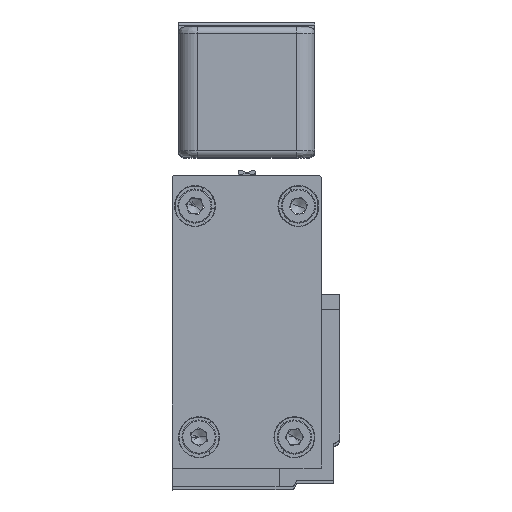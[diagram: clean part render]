
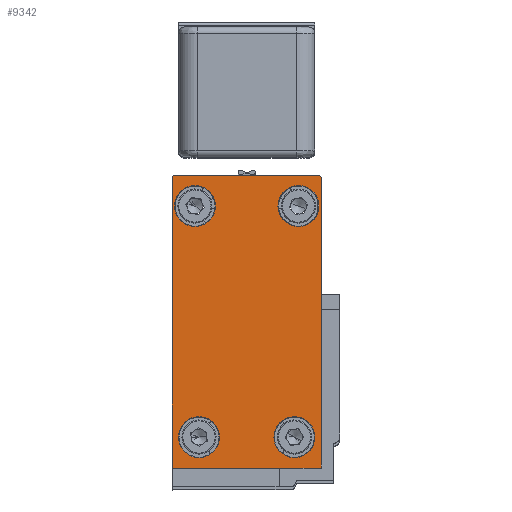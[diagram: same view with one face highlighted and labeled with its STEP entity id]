
A CAD part, top view. The second image highlights one B-rep face of the part: STEP entity #9342.
In plain terms, the highlighted planar face has unit normal (0, 0, 1).
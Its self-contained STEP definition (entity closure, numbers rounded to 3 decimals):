
#182 = CIRCLE ( 'NONE', #5181, 3.302 ) ;
#318 = AXIS2_PLACEMENT_3D ( 'NONE', #29652, #29645, #29474 ) ;
#383 = EDGE_CURVE ( 'NONE', #25923, #4371, #20997, .T. ) ;
#823 = ORIENTED_EDGE ( 'NONE', *, *, #23615, .T. ) ;
#1752 = CARTESIAN_POINT ( 'NONE',  ( -11.063, 21.401, 3185. ) ) ;
#2091 = DIRECTION ( 'NONE',  ( -1., 0., 0. ) ) ;
#2096 = DIRECTION ( 'NONE',  ( 0., 0., -1. ) ) ;
#2126 = CARTESIAN_POINT ( 'NONE',  ( -13.714, -15.887, 3185. ) ) ;
#2542 = VERTEX_POINT ( 'NONE', #18783 ) ;
#2805 = CARTESIAN_POINT ( 'NONE',  ( 5.984, 7.11, 3185. ) ) ;
#3389 = EDGE_LOOP ( 'NONE', ( #4789, #9241 ) ) ;
#3394 = CIRCLE ( 'NONE', #14836, 0.5 ) ;
#3486 = VERTEX_POINT ( 'NONE', #11392 ) ;
#3523 = CIRCLE ( 'NONE', #25349, 3.302 ) ;
#4075 = DIRECTION ( 'NONE',  ( -1., 0., 0. ) ) ;
#4110 = DIRECTION ( 'NONE',  ( 0., 0., -1. ) ) ;
#4147 = CARTESIAN_POINT ( 'NONE',  ( 1.676, -15.887, 3185. ) ) ;
#4371 = VERTEX_POINT ( 'NONE', #1752 ) ;
#4789 = ORIENTED_EDGE ( 'NONE', *, *, #383, .T. ) ;
#4973 = CARTESIAN_POINT ( 'NONE',  ( 5.984, 7.11, 3185. ) ) ;
#5000 = CARTESIAN_POINT ( 'NONE',  ( 5.637, 21.401, 3185. ) ) ;
#5181 = AXIS2_PLACEMENT_3D ( 'NONE', #31773, #14780, #34570 ) ;
#5633 = AXIS2_PLACEMENT_3D ( 'NONE', #25414, #25384, #25373 ) ;
#5845 = AXIS2_PLACEMENT_3D ( 'NONE', #22988, #6001, #25837 ) ;
#5848 = LINE ( 'NONE', #15147, #13366 ) ;
#5880 = VERTEX_POINT ( 'NONE', #8131 ) ;
#6001 = DIRECTION ( 'NONE',  ( 0., 0., -1. ) ) ;
#7020 = ORIENTED_EDGE ( 'NONE', *, *, #16464, .T. ) ;
#7144 = EDGE_CURVE ( 'NONE', #2542, #7967, #3394, .T. ) ;
#7254 = EDGE_CURVE ( 'NONE', #36102, #3486, #26429, .T. ) ;
#7514 = CARTESIAN_POINT ( 'NONE',  ( -10.412, -15.887, 3185. ) ) ;
#7869 = VERTEX_POINT ( 'NONE', #2805 ) ;
#7967 = VERTEX_POINT ( 'NONE', #8685 ) ;
#8131 = CARTESIAN_POINT ( 'NONE',  ( -1.626, -15.887, 3185. ) ) ;
#8455 = DIRECTION ( 'NONE',  ( -1., 0., 0. ) ) ;
#8497 = DIRECTION ( 'NONE',  ( 0., 0., 1. ) ) ;
#8527 = CARTESIAN_POINT ( 'NONE',  ( -18.014, -20.888, 3185. ) ) ;
#8685 = CARTESIAN_POINT ( 'NONE',  ( 5.485, 26.371, 3185. ) ) ;
#8900 = PLANE ( 'NONE',  #14030 ) ;
#9211 = DIRECTION ( 'NONE',  ( -1., 0., 0. ) ) ;
#9241 = ORIENTED_EDGE ( 'NONE', *, *, #26726, .T. ) ;
#9243 = DIRECTION ( 'NONE',  ( 0., 0., -1. ) ) ;
#9278 = DIRECTION ( 'NONE',  ( -1., 0., 0. ) ) ;
#9288 = CARTESIAN_POINT ( 'NONE',  ( 2.335, 21.401, 3185. ) ) ;
#9342 = ADVANCED_FACE ( 'NONE', ( #10724, #18166, #24873, #33276, #17275 ), #8900, .T. ) ;
#9343 = CARTESIAN_POINT ( 'NONE',  ( -18.014, 25.871, 3185. ) ) ;
#9362 = DIRECTION ( 'NONE',  ( 0., 0., -1. ) ) ;
#9408 = CARTESIAN_POINT ( 'NONE',  ( -13.714, -15.887, 3185. ) ) ;
#10317 = AXIS2_PLACEMENT_3D ( 'NONE', #4147, #4110, #4075 ) ;
#10487 = VECTOR ( 'NONE', #27668, 1000. ) ;
#10667 = EDGE_CURVE ( 'NONE', #33552, #5880, #34904, .T. ) ;
#10724 = FACE_BOUND ( 'NONE', #3389, .T. ) ;
#10804 = CARTESIAN_POINT ( 'NONE',  ( -17.667, 21.401, 3185. ) ) ;
#10818 = EDGE_CURVE ( 'NONE', #33937, #30704, #24295, .T. ) ;
#11171 = EDGE_CURVE ( 'NONE', #5880, #33552, #36441, .T. ) ;
#11301 = EDGE_CURVE ( 'NONE', #23341, #15630, #31187, .T. ) ;
#11392 = CARTESIAN_POINT ( 'NONE',  ( 5.984, -20.888, 3185. ) ) ;
#11906 = AXIS2_PLACEMENT_3D ( 'NONE', #30550, #13534, #33354 ) ;
#11956 = ORIENTED_EDGE ( 'NONE', *, *, #7254, .T. ) ;
#12582 = CARTESIAN_POINT ( 'NONE',  ( 5.485, 26.371, 3185. ) ) ;
#12989 = CARTESIAN_POINT ( 'NONE',  ( -18.014, -20.888, 3185. ) ) ;
#13132 = EDGE_CURVE ( 'NONE', #15630, #23341, #3523, .T. ) ;
#13366 = VECTOR ( 'NONE', #14816, 1000. ) ;
#13534 = DIRECTION ( 'NONE',  ( 0., 0., -1. ) ) ;
#13615 = EDGE_LOOP ( 'NONE', ( #25400, #27262, #19714, #16855, #27242, #7020, #11956 ) ) ;
#13789 = CARTESIAN_POINT ( 'NONE',  ( -0.967, 21.401, 3185. ) ) ;
#14030 = AXIS2_PLACEMENT_3D ( 'NONE', #8527, #8497, #8455 ) ;
#14393 = EDGE_CURVE ( 'NONE', #3486, #7869, #33952, .T. ) ;
#14780 = DIRECTION ( 'NONE',  ( 0., 0., -1. ) ) ;
#14816 = DIRECTION ( 'NONE',  ( 0., -1., 0. ) ) ;
#14836 = AXIS2_PLACEMENT_3D ( 'NONE', #21601, #21592, #21549 ) ;
#15147 = CARTESIAN_POINT ( 'NONE',  ( -18.014, 25.871, 3185. ) ) ;
#15630 = VERTEX_POINT ( 'NONE', #25390 ) ;
#16254 = VECTOR ( 'NONE', #18238, 1000. ) ;
#16464 = EDGE_CURVE ( 'NONE', #27943, #36102, #5848, .T. ) ;
#16855 = ORIENTED_EDGE ( 'NONE', *, *, #25210, .T. ) ;
#17275 = FACE_OUTER_BOUND ( 'NONE', #13615, .T. ) ;
#17946 = LINE ( 'NONE', #4973, #10487 ) ;
#17984 = CARTESIAN_POINT ( 'NONE',  ( 4.978, -15.887, 3185. ) ) ;
#18166 = FACE_BOUND ( 'NONE', #20255, .T. ) ;
#18238 = DIRECTION ( 'NONE',  ( -1., 0., 0. ) ) ;
#18439 = EDGE_LOOP ( 'NONE', ( #20466, #21894 ) ) ;
#18783 = CARTESIAN_POINT ( 'NONE',  ( 5.984, 25.871, 3185. ) ) ;
#19062 = ORIENTED_EDGE ( 'NONE', *, *, #10667, .T. ) ;
#19105 = CIRCLE ( 'NONE', #5845, 3.302 ) ;
#19147 = ORIENTED_EDGE ( 'NONE', *, *, #11171, .T. ) ;
#19714 = ORIENTED_EDGE ( 'NONE', *, *, #7144, .T. ) ;
#19989 = DIRECTION ( 'NONE',  ( 1., 0., 0. ) ) ;
#20197 = CARTESIAN_POINT ( 'NONE',  ( -18.014, -20.888, 3185. ) ) ;
#20255 = EDGE_LOOP ( 'NONE', ( #32744, #823 ) ) ;
#20466 = ORIENTED_EDGE ( 'NONE', *, *, #13132, .T. ) ;
#20997 = CIRCLE ( 'NONE', #5633, 3.302 ) ;
#21549 = DIRECTION ( 'NONE',  ( 0., 1., 0. ) ) ;
#21592 = DIRECTION ( 'NONE',  ( 0., 0., 1. ) ) ;
#21601 = CARTESIAN_POINT ( 'NONE',  ( 5.485, 25.871, 3185. ) ) ;
#21894 = ORIENTED_EDGE ( 'NONE', *, *, #11301, .T. ) ;
#22089 = EDGE_CURVE ( 'NONE', #7869, #2542, #17946, .T. ) ;
#22988 = CARTESIAN_POINT ( 'NONE',  ( 2.335, 21.401, 3185. ) ) ;
#23341 = VERTEX_POINT ( 'NONE', #7514 ) ;
#23615 = EDGE_CURVE ( 'NONE', #30704, #33937, #19105, .T. ) ;
#23819 = LINE ( 'NONE', #12582, #16254 ) ;
#24295 = CIRCLE ( 'NONE', #34445, 3.302 ) ;
#24873 = FACE_BOUND ( 'NONE', #25151, .T. ) ;
#25151 = EDGE_LOOP ( 'NONE', ( #19147, #19062 ) ) ;
#25210 = EDGE_CURVE ( 'NONE', #7967, #31440, #23819, .T. ) ;
#25349 = AXIS2_PLACEMENT_3D ( 'NONE', #9408, #9362, #9278 ) ;
#25373 = DIRECTION ( 'NONE',  ( -1., 0., 0. ) ) ;
#25384 = DIRECTION ( 'NONE',  ( 0., 0., -1. ) ) ;
#25390 = CARTESIAN_POINT ( 'NONE',  ( -17.017, -15.887, 3185. ) ) ;
#25400 = ORIENTED_EDGE ( 'NONE', *, *, #14393, .T. ) ;
#25414 = CARTESIAN_POINT ( 'NONE',  ( -14.365, 21.401, 3185. ) ) ;
#25837 = DIRECTION ( 'NONE',  ( -1., 0., 0. ) ) ;
#25923 = VERTEX_POINT ( 'NONE', #10804 ) ;
#26429 = LINE ( 'NONE', #20197, #33054 ) ;
#26452 = VECTOR ( 'NONE', #26747, 1000. ) ;
#26630 = CARTESIAN_POINT ( 'NONE',  ( 5.984, -20.888, 3185. ) ) ;
#26726 = EDGE_CURVE ( 'NONE', #4371, #25923, #182, .T. ) ;
#26747 = DIRECTION ( 'NONE',  ( 0., 1., 0. ) ) ;
#27242 = ORIENTED_EDGE ( 'NONE', *, *, #29541, .F. ) ;
#27262 = ORIENTED_EDGE ( 'NONE', *, *, #22089, .T. ) ;
#27668 = DIRECTION ( 'NONE',  ( 0., 1., 0. ) ) ;
#27943 = VERTEX_POINT ( 'NONE', #9343 ) ;
#29325 = AXIS2_PLACEMENT_3D ( 'NONE', #2126, #2096, #2091 ) ;
#29474 = DIRECTION ( 'NONE',  ( -1., 0., 0. ) ) ;
#29541 = EDGE_CURVE ( 'NONE', #27943, #31440, #30589, .T. ) ;
#29645 = DIRECTION ( 'NONE',  ( 0., 0., -1. ) ) ;
#29652 = CARTESIAN_POINT ( 'NONE',  ( 1.676, -15.887, 3185. ) ) ;
#30550 = CARTESIAN_POINT ( 'NONE',  ( -17.514, 25.871, 3185. ) ) ;
#30589 = CIRCLE ( 'NONE', #11906, 0.5 ) ;
#30704 = VERTEX_POINT ( 'NONE', #5000 ) ;
#31187 = CIRCLE ( 'NONE', #29325, 3.302 ) ;
#31440 = VERTEX_POINT ( 'NONE', #33433 ) ;
#31773 = CARTESIAN_POINT ( 'NONE',  ( -14.365, 21.401, 3185. ) ) ;
#32744 = ORIENTED_EDGE ( 'NONE', *, *, #10818, .T. ) ;
#33054 = VECTOR ( 'NONE', #19989, 1000. ) ;
#33276 = FACE_BOUND ( 'NONE', #18439, .T. ) ;
#33354 = DIRECTION ( 'NONE',  ( 0., 1., 0. ) ) ;
#33433 = CARTESIAN_POINT ( 'NONE',  ( -17.514, 26.371, 3185. ) ) ;
#33552 = VERTEX_POINT ( 'NONE', #17984 ) ;
#33937 = VERTEX_POINT ( 'NONE', #13789 ) ;
#33952 = LINE ( 'NONE', #26630, #26452 ) ;
#34445 = AXIS2_PLACEMENT_3D ( 'NONE', #9288, #9243, #9211 ) ;
#34570 = DIRECTION ( 'NONE',  ( -1., 0., 0. ) ) ;
#34904 = CIRCLE ( 'NONE', #318, 3.302 ) ;
#36102 = VERTEX_POINT ( 'NONE', #12989 ) ;
#36441 = CIRCLE ( 'NONE', #10317, 3.302 ) ;
